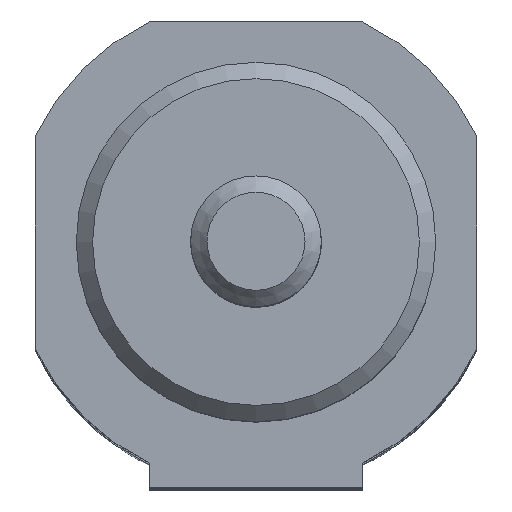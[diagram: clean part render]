
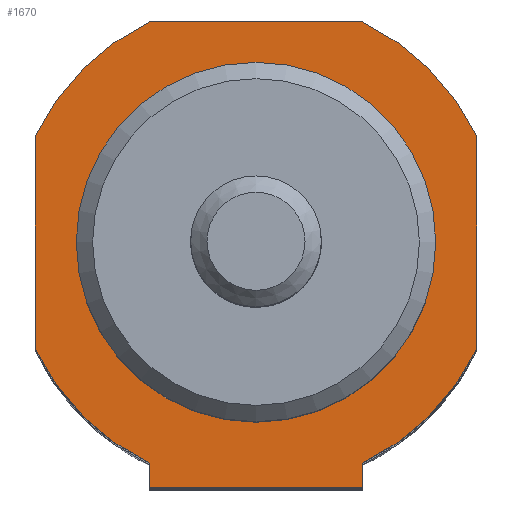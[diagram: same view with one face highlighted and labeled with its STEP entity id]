
A CAD part, top view. The second image highlights one B-rep face of the part: STEP entity #1670.
In plain terms, the highlighted planar face has unit normal (0, 0, 1).
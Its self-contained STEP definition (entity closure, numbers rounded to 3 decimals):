
#192=CARTESIAN_POINT('',(6.538,-15.,106.0));
#193=VERTEX_POINT('',#192);
#194=CARTESIAN_POINT('',(-6.538,-15.,106.0));
#195=VERTEX_POINT('',#194);
#196=CARTESIAN_POINT('',(6.538,-15.,106.0));
#197=DIRECTION('',(-1.0,0.0,0.0));
#198=VECTOR('',#197,13.077);
#199=LINE('',#196,#198);
#200=EDGE_CURVE('',#193,#195,#199,.T.);
#257=CARTESIAN_POINT('',(-6.538,-13.5,106.0));
#258=VERTEX_POINT('',#257);
#272=CARTESIAN_POINT('',(-6.538,-13.5,106.0));
#273=DIRECTION('',(0.0,-1.0,0.0));
#274=VECTOR('',#273,1.5);
#275=LINE('',#272,#274);
#276=EDGE_CURVE('',#258,#195,#275,.T.);
#288=CARTESIAN_POINT('',(6.538,-13.5,106.0));
#289=VERTEX_POINT('',#288);
#296=CARTESIAN_POINT('',(6.538,-13.5,106.0));
#297=DIRECTION('',(0.0,-1.0,0.0));
#298=VECTOR('',#297,1.5);
#299=LINE('',#296,#298);
#300=EDGE_CURVE('',#289,#193,#299,.T.);
#1398=CARTESIAN_POINT('',(11.0,0.,106.0));
#1399=VERTEX_POINT('',#1398);
#1400=CARTESIAN_POINT('',(0.,0.0,106.0));
#1401=DIRECTION('',(0.0,0.0,-1.0));
#1402=DIRECTION('',(-1.0,0.0,0.0));
#1403=AXIS2_PLACEMENT_3D('',#1400,#1401,#1402);
#1404=CIRCLE('',#1403,11.0);
#1405=EDGE_CURVE('',#1399,#1399,#1404,.T.);
#1490=CARTESIAN_POINT('',(-6.538,13.5,106.0));
#1491=VERTEX_POINT('',#1490);
#1492=CARTESIAN_POINT('',(6.538,13.5,106.0));
#1493=VERTEX_POINT('',#1492);
#1494=CARTESIAN_POINT('',(-6.538,13.5,106.0));
#1495=DIRECTION('',(1.0,0.0,0.0));
#1496=VECTOR('',#1495,13.077);
#1497=LINE('',#1494,#1496);
#1498=EDGE_CURVE('',#1491,#1493,#1497,.T.);
#1521=CARTESIAN_POINT('',(13.5,6.538,106.0));
#1522=VERTEX_POINT('',#1521);
#1523=CARTESIAN_POINT('',(0.,0.,106.));
#1524=DIRECTION('',(0.,0.,-1.0));
#1525=DIRECTION('',(0.9,0.436,0.));
#1526=AXIS2_PLACEMENT_3D('',#1523,#1524,#1525);
#1527=CIRCLE('',#1526,15.);
#1528=EDGE_CURVE('',#1493,#1522,#1527,.T.);
#1546=CARTESIAN_POINT('',(13.5,-6.538,106.0));
#1547=VERTEX_POINT('',#1546);
#1548=CARTESIAN_POINT('',(13.5,6.538,106.0));
#1549=DIRECTION('',(0.0,-1.0,0.0));
#1550=VECTOR('',#1549,13.077);
#1551=LINE('',#1548,#1550);
#1552=EDGE_CURVE('',#1522,#1547,#1551,.T.);
#1570=CARTESIAN_POINT('',(0.,0.,106.));
#1571=DIRECTION('',(0.,0.,-1.0));
#1572=DIRECTION('',(0.436,-0.9,0.));
#1573=AXIS2_PLACEMENT_3D('',#1570,#1571,#1572);
#1574=CIRCLE('',#1573,15.);
#1575=EDGE_CURVE('',#1547,#289,#1574,.T.);
#1588=CARTESIAN_POINT('',(-13.5,-6.538,106.0));
#1589=VERTEX_POINT('',#1588);
#1590=CARTESIAN_POINT('',(0.,0.,106.));
#1591=DIRECTION('',(0.,0.,-1.0));
#1592=DIRECTION('',(-0.9,-0.436,0.));
#1593=AXIS2_PLACEMENT_3D('',#1590,#1591,#1592);
#1594=CIRCLE('',#1593,15.);
#1595=EDGE_CURVE('',#258,#1589,#1594,.T.);
#1613=CARTESIAN_POINT('',(-13.5,6.538,106.0));
#1614=VERTEX_POINT('',#1613);
#1615=CARTESIAN_POINT('',(-13.5,-6.538,106.0));
#1616=DIRECTION('',(0.0,1.0,0.0));
#1617=VECTOR('',#1616,13.077);
#1618=LINE('',#1615,#1617);
#1619=EDGE_CURVE('',#1589,#1614,#1618,.T.);
#1637=CARTESIAN_POINT('',(0.,0.,106.));
#1638=DIRECTION('',(0.,0.,-1.0));
#1639=DIRECTION('',(-0.436,0.9,0.));
#1640=AXIS2_PLACEMENT_3D('',#1637,#1638,#1639);
#1641=CIRCLE('',#1640,15.);
#1642=EDGE_CURVE('',#1614,#1491,#1641,.T.);
#1650=CARTESIAN_POINT('',(0.,0.0,106.0));
#1651=DIRECTION('',(0.0,0.0,1.0));
#1652=DIRECTION('',(1.0,0.0,0.0));
#1653=AXIS2_PLACEMENT_3D('',#1650,#1651,#1652);
#1654=PLANE('',#1653);
#1655=ORIENTED_EDGE('',*,*,#1498,.F.);
#1656=ORIENTED_EDGE('',*,*,#1642,.F.);
#1657=ORIENTED_EDGE('',*,*,#1619,.F.);
#1658=ORIENTED_EDGE('',*,*,#1595,.F.);
#1659=ORIENTED_EDGE('',*,*,#276,.T.);
#1660=ORIENTED_EDGE('',*,*,#200,.F.);
#1661=ORIENTED_EDGE('',*,*,#300,.F.);
#1662=ORIENTED_EDGE('',*,*,#1575,.F.);
#1663=ORIENTED_EDGE('',*,*,#1552,.F.);
#1664=ORIENTED_EDGE('',*,*,#1528,.F.);
#1665=EDGE_LOOP('',(#1655,#1656,#1657,#1658,#1659,#1660,#1661,#1662,#1663,#1664));
#1666=FACE_OUTER_BOUND('',#1665,.T.);
#1667=ORIENTED_EDGE('',*,*,#1405,.T.);
#1668=EDGE_LOOP('',(#1667));
#1669=FACE_BOUND('',#1668,.T.);
#1670=ADVANCED_FACE('',(#1666,#1669),#1654,.T.);
